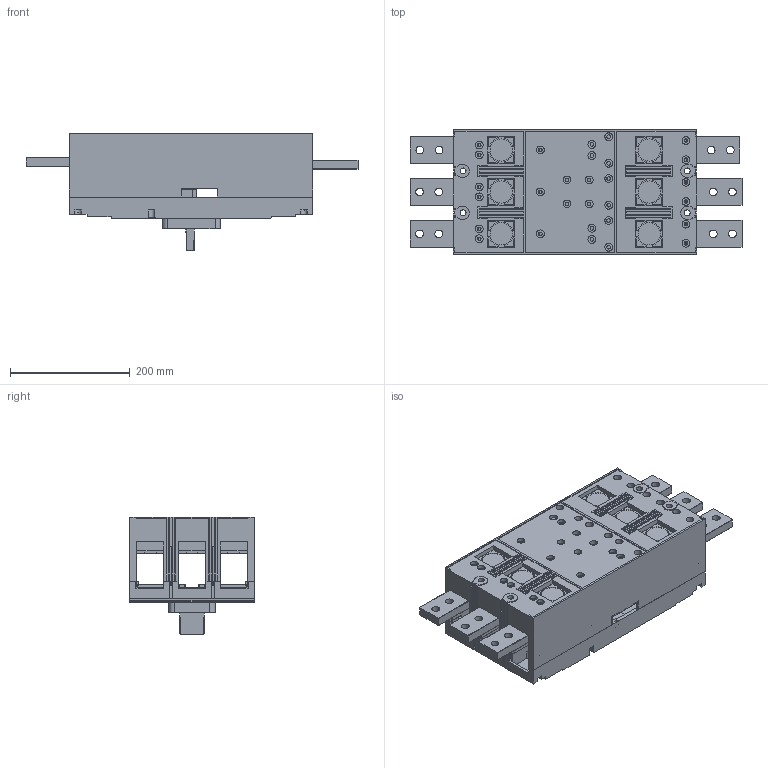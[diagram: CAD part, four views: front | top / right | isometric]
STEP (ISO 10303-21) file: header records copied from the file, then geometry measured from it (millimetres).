
FILE_DESCRIPTION((''),'2;1');
FILE_NAME('TGM1-1250_ASM','2017-03-02T',('Administrator'),(''),'PRO/ENGINEER BY PARAMETRIC TECHNOLOGY CORPORATION, 2013050','PRO/ENGINEER BY PARAMETRIC TECHNOLOGY CORPORATION, 2013050','');
FILE_SCHEMA(('CONFIG_CONTROL_DESIGN'));
Products named in the file (7): 5TZD-024-1008_11; 8TZD-315-1023_59; 8TZD-253-1008_39; ASM0004_ASM_1_ASM; 8TZD-585-1013; 8TZD-585-1014; TGM1-1250_ASM
Assembly tree (10 placements, depth 3):
  TGM1-1250_ASM
    ASM0004_ASM_1_ASM
      5TZD-024-1008_11
      8TZD-315-1023_59
      8TZD-253-1008_39
    8TZD-585-1013  x3
    8TZD-585-1014  x3
Bounding box: 554 x 208 x 196 mm (x, y, z)
Volume: 4628455.1 mm3; surface area: 1168769.5 mm2
Topology: 9 solids, 36 shells, 3126 faces, 8657 edges, 5750 vertices
Faces by surface type: plane 2200, cylinder 785, cone 48, extrusion 43, torus 28, bspline 12, sphere 10
Entity records: 93840 total; most frequent: CARTESIAN_POINT 18242, ORIENTED_EDGE 15962, DIRECTION 15192, EDGE_CURVE 7999, VECTOR 6288, LINE 6245, VERTEX_POINT 5322, AXIS2_PLACEMENT_3D 4452
